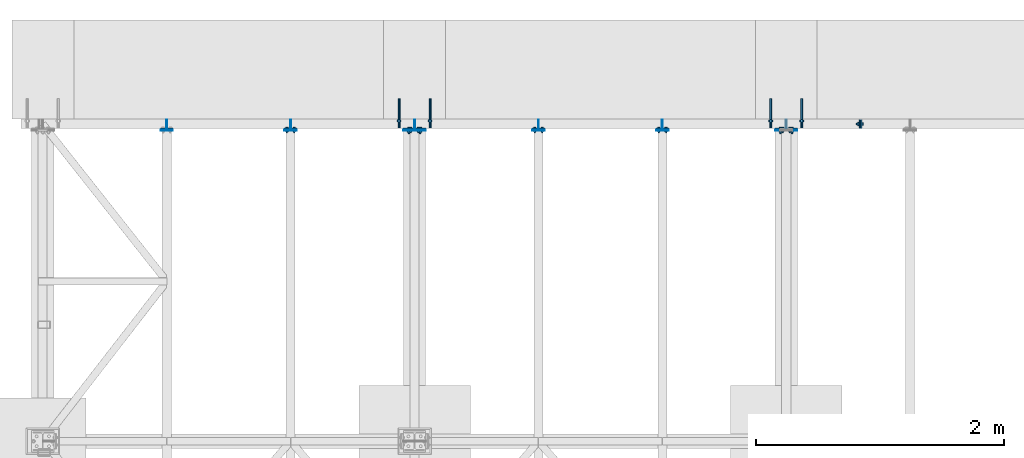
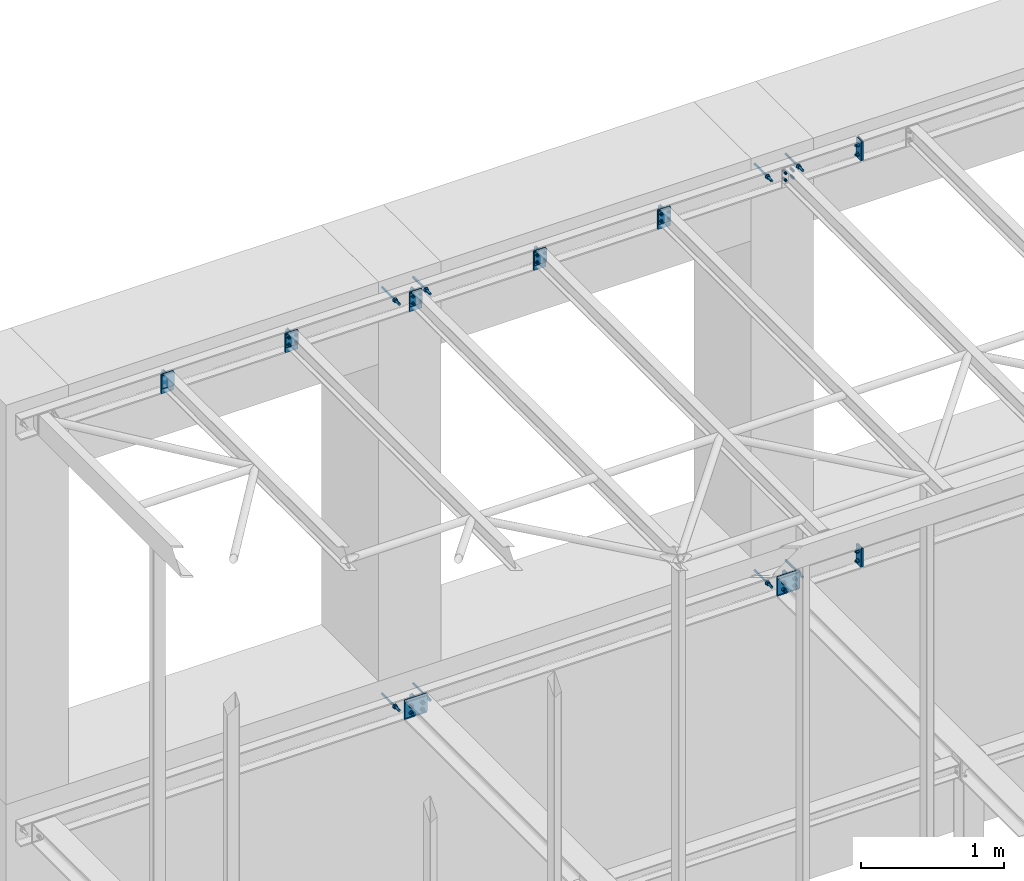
# One storey, part 15 of 23: 25 discrete accessories, 13 mechanical fasteners, 11 elements without a shape of their own.
"""IFC2X3 building model written with IfcOpenShell, lengths in millimetres."""

from ifc_helpers import new_model, si_unit, frame, frame_2d, origin_with_axes, origin_2d_with_axis, place, context, subcontext, project, spatial, polyline, circle_curve, parameter, trimmed, segment, composite_curve, circle, outline, extrude, source, transform, mapped, material, type_object, element, aggregate, save


model = new_model("IFC2X3")

# Units and contexts
model_context = context("Model", 3, precision=1e-05, world=origin_with_axes())
body_context = subcontext(model_context, "Body", "Model", "MODEL_VIEW")
ifc_project = project(units=[si_unit("LENGTHUNIT", "METRE", prefix="MILLI"), si_unit("AREAUNIT", "SQUARE_METRE"), si_unit("VOLUMEUNIT", "CUBIC_METRE"), si_unit("MASSUNIT", "GRAM", prefix="KILO"), si_unit("TIMEUNIT", "SECOND"), si_unit("PLANEANGLEUNIT", "RADIAN"), si_unit("SOLIDANGLEUNIT", "STERADIAN"), si_unit("THERMODYNAMICTEMPERATUREUNIT", "DEGREE_CELSIUS"), si_unit("LUMINOUSINTENSITYUNIT", "LUMEN")], contexts=[model_context])

# Site, building, storey
site_placement = place(None, origin_with_axes())
site = spatial("IfcSite", under=ifc_project, at=site_placement, Name="Undefined", CompositionType="ELEMENT")
building_placement = place(site_placement, origin_with_axes())
building = spatial("IfcBuilding", under=site, at=building_placement, Name="Undefined", CompositionType="ELEMENT")
storey_placement = place(building_placement, origin_with_axes())
storey = spatial("IfcBuildingStorey", under=building, at=storey_placement, Name="Undefined", CompositionType="ELEMENT", Elevation=0.0)

# Assembly, discrete accessory
assembly_1_placement = place(storey_placement, origin_with_axes())
assembly_1 = element("IfcElementAssembly", 1, at=assembly_1_placement, inside=storey, Name="Steel Assembly", AssemblyPlace="NOTDEFINED", PredefinedType="RIGID_FRAME")
ifc_material_1 = material(Name="STEEL/S235JR")
discrete_accessory_type_1 = type_object("IfcDiscreteAccessoryType", Name="PLECH")
discrete_accessory_1_placement = place(assembly_1_placement, frame((6645.0, 3855.0, -170.5), z_axis=(1.0, 0.0, 0.0), x_axis=(0.0, -1.0, 0.0)))
discrete_accessory_1 = element("IfcDiscreteAccessory", 2, at=discrete_accessory_1_placement, type_object=discrete_accessory_type_1, material=ifc_material_1, Name="PLECH", ObjectType="PL10*70", context=body_context, shape_type="SweptSolid", body=[
    extrude(outline(polyline([(0.0, 0.0), (70.0, 4.54747350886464e-13), (70.0, 159.0), (0.0, 159.0), (0.0, 0.0)])), frame((0.0, 0.0, -5.0), z_axis=(0.0, 0.0, 1.0), x_axis=(1.0, 0.0, 0.0)), (0.0, 0.0, 1.0), 10.0),
])

assembly_2_placement = place(storey_placement, origin_with_axes())
assembly_2 = element("IfcElementAssembly", 3, at=assembly_2_placement, inside=storey, Name="Steel Assembly", AssemblyPlace="NOTDEFINED", PredefinedType="RIGID_FRAME")
discrete_accessory_2_placement = place(assembly_2_placement, frame((6655.0, 3855.0, -170.5), z_axis=(1.0, 0.0, 0.0), x_axis=(0.0, -1.0, 0.0)))
discrete_accessory_2 = element("IfcDiscreteAccessory", 4, at=discrete_accessory_2_placement, type_object=discrete_accessory_type_1, material=ifc_material_1, Name="PLECH", ObjectType="PL10*70", context=body_context, shape_type="SweptSolid", body=[
    extrude(outline(polyline([(0.0, 0.0), (70.0, 4.54747350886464e-13), (70.0, 159.0), (0.0, 159.0), (0.0, 0.0)])), frame((0.0, 0.0, -5.0), z_axis=(0.0, 0.0, 1.0), x_axis=(1.0, 0.0, 0.0)), (0.0, 0.0, 1.0), 10.0),
])

assembly_3_placement = place(storey_placement, origin_with_axes())
assembly_3 = element("IfcElementAssembly", 5, at=assembly_3_placement, inside=storey, Name="Steel Assembly", AssemblyPlace="NOTDEFINED", PredefinedType="RIGID_FRAME")
discrete_accessory_3_placement = place(assembly_3_placement, frame((6645.0, 3855.0, 3289.5), z_axis=(1.0, 0.0, 0.0), x_axis=(0.0, -1.0, 0.0)))
discrete_accessory_3 = element("IfcDiscreteAccessory", 6, at=discrete_accessory_3_placement, type_object=discrete_accessory_type_1, material=ifc_material_1, Name="PLECH", ObjectType="PL10*70", context=body_context, shape_type="SweptSolid", body=[
    extrude(outline(polyline([(0.0, 0.0), (70.0, 4.54747350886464e-13), (70.0, 159.0), (0.0, 159.0), (0.0, 0.0)])), frame((0.0, 0.0, -5.0), z_axis=(0.0, 0.0, 1.0), x_axis=(1.0, 0.0, 0.0)), (0.0, 0.0, 1.0), 10.0),
])

assembly_4_placement = place(storey_placement, origin_with_axes())
assembly_4 = element("IfcElementAssembly", 7, at=assembly_4_placement, inside=storey, Name="Steel Assembly", AssemblyPlace="NOTDEFINED", PredefinedType="RIGID_FRAME")
discrete_accessory_4_placement = place(assembly_4_placement, frame((6655.0, 3855.0, 3289.5), z_axis=(1.0, 0.0, 0.0), x_axis=(0.0, -1.0, 0.0)))
discrete_accessory_4 = element("IfcDiscreteAccessory", 8, at=discrete_accessory_4_placement, type_object=discrete_accessory_type_1, material=ifc_material_1, Name="PLECH", ObjectType="PL10*70", context=body_context, shape_type="SweptSolid", body=[
    extrude(outline(polyline([(0.0, 0.0), (70.0, 4.54747350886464e-13), (70.0, 159.0), (0.0, 159.0), (0.0, 0.0)])), frame((0.0, 0.0, -5.0), z_axis=(0.0, 0.0, 1.0), x_axis=(1.0, 0.0, 0.0)), (0.0, 0.0, 1.0), 10.0),
])

# Discrete accessory
discrete_accessory_5_placement = place(assembly_1_placement, frame((5960.0, 3780.0, -168.0), z_axis=(0.0, 1.0, 0.0), x_axis=(1.0, 0.0, 0.0)))
discrete_accessory_5 = element("IfcDiscreteAccessory", 9, at=discrete_accessory_5_placement, type_object=discrete_accessory_type_1, material=ifc_material_1, Name="PLECH", ObjectType="PL10*164", context=body_context, shape_type="SweptSolid", body=[
    extrude(outline(polyline([(0.0, 0.0), (180.0, 0.0), (180.0, 164.0), (0.0, 164.0), (0.0, 0.0)])), frame((0.0, 0.0, -5.0), z_axis=(0.0, 0.0, 1.0), x_axis=(1.0, 0.0, 0.0)), (0.0, 0.0, 1.0), 10.0),
])

discrete_accessory_6_placement = place(assembly_1_placement, frame((6050.0, 3785.0, -170.5), z_axis=(-1.0, 0.0, 0.0), x_axis=(0.0, 1.0, 0.0)))
discrete_accessory_6 = element("IfcDiscreteAccessory", 10, at=discrete_accessory_6_placement, type_object=discrete_accessory_type_1, material=ifc_material_1, Name="PLECH", ObjectType="PL8*70", context=body_context, shape_type="SweptSolid", body=[
    extrude(outline(composite_curve([segment(polyline([(0.0, 0.0), (49.5, 0.0)]), True, "CONTINUOUS"), segment(trimmed(circle_curve(frame_2d((69.5, 0.0), x_axis=(-1.0, 0.0)), 20.0), [parameter(0.0)], [parameter(4.71238898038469)], False, "PARAMETER"), True, "CONTINUOUS"), segment(polyline([(69.5, 20.0), (69.5, 139.0)]), True, "CONTINUOUS"), segment(trimmed(circle_curve(frame_2d((69.5, 159.0), x_axis=(0.0, -1.0)), 20.0), [parameter(0.0)], [parameter(4.71238898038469)], False, "PARAMETER"), True, "CONTINUOUS"), segment(polyline([(49.5, 159.0), (0.0, 159.0), (0.0, 0.0)]), True, "DISCONTINUOUS")], self_intersect=False)), frame((0.0, 0.0, -4.0), z_axis=(0.0, 0.0, 1.0), x_axis=(1.0, 0.0, 0.0)), (0.0, 0.0, 1.0), 8.0),
])

# Assembly, discrete accessory
assembly_5_placement = place(storey_placement, origin_with_axes())
assembly_5 = element("IfcElementAssembly", 11, at=assembly_5_placement, inside=storey, Name="Steel Assembly", AssemblyPlace="NOTDEFINED", PredefinedType="RIGID_FRAME")
discrete_accessory_7_placement = place(assembly_5_placement, frame((5960.0, 3771.0, -184.0), z_axis=(0.0, 1.0, 0.0), x_axis=(1.0, 0.0, 0.0)))
discrete_accessory_7 = element("IfcDiscreteAccessory", 12, at=discrete_accessory_7_placement, type_object=discrete_accessory_type_1, material=ifc_material_1, Name="PLECH", ObjectType="PL8*132", context=body_context, shape_type="SweptSolid", body=[
    extrude(outline(polyline([(0.0, 0.0), (180.0, 0.0), (180.0, 132.0), (0.0, 132.0), (0.0, 0.0)])), frame((0.0, 0.0, -4.0), z_axis=(0.0, 0.0, 1.0), x_axis=(1.0, 0.0, 0.0)), (0.0, 0.0, 1.0), 8.0),
])
aggregate(assembly_5, [discrete_accessory_7])

# Discrete accessory
discrete_accessory_8_placement = place(assembly_1_placement, frame((2960.0, 3780.0, -168.0), z_axis=(0.0, 1.0, 0.0), x_axis=(1.0, 0.0, 0.0)))
discrete_accessory_8 = element("IfcDiscreteAccessory", 13, at=discrete_accessory_8_placement, type_object=discrete_accessory_type_1, material=ifc_material_1, Name="PLECH", ObjectType="PL10*164", context=body_context, shape_type="SweptSolid", body=[
    extrude(outline(polyline([(0.0, 0.0), (180.0, 0.0), (180.0, 164.0), (0.0, 164.0), (0.0, 0.0)])), frame((0.0, 0.0, -5.0), z_axis=(0.0, 0.0, 1.0), x_axis=(1.0, 0.0, 0.0)), (0.0, 0.0, 1.0), 10.0),
])

discrete_accessory_9_placement = place(assembly_1_placement, frame((3050.0, 3785.0, -170.5), z_axis=(-1.0, 0.0, 0.0), x_axis=(0.0, 1.0, 0.0)))
discrete_accessory_9 = element("IfcDiscreteAccessory", 14, at=discrete_accessory_9_placement, type_object=discrete_accessory_type_1, material=ifc_material_1, Name="PLECH", ObjectType="PL8*70", context=body_context, shape_type="SweptSolid", body=[
    extrude(outline(composite_curve([segment(polyline([(0.0, 0.0), (49.5, 0.0)]), True, "CONTINUOUS"), segment(trimmed(circle_curve(frame_2d((69.5, 0.0), x_axis=(-1.0, 0.0)), 20.0), [parameter(0.0)], [parameter(4.71238898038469)], False, "PARAMETER"), True, "CONTINUOUS"), segment(polyline([(69.5, 20.0), (69.5, 139.0)]), True, "CONTINUOUS"), segment(trimmed(circle_curve(frame_2d((69.5, 159.0), x_axis=(0.0, -1.0)), 20.0), [parameter(0.0)], [parameter(4.71238898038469)], False, "PARAMETER"), True, "CONTINUOUS"), segment(polyline([(49.5, 159.0), (0.0, 159.0), (0.0, 0.0)]), True, "DISCONTINUOUS")], self_intersect=False)), frame((0.0, 0.0, -4.0), z_axis=(0.0, 0.0, 1.0), x_axis=(1.0, 0.0, 0.0)), (0.0, 0.0, 1.0), 8.0),
])

# Assembly, discrete accessory
assembly_6_placement = place(storey_placement, origin_with_axes())
assembly_6 = element("IfcElementAssembly", 15, at=assembly_6_placement, inside=storey, Name="Steel Assembly", AssemblyPlace="NOTDEFINED", PredefinedType="RIGID_FRAME")
discrete_accessory_10_placement = place(assembly_6_placement, frame((2960.0, 3771.0, -184.0), z_axis=(0.0, 1.0, 0.0), x_axis=(1.0, 0.0, 0.0)))
discrete_accessory_10 = element("IfcDiscreteAccessory", 16, at=discrete_accessory_10_placement, type_object=discrete_accessory_type_1, material=ifc_material_1, Name="PLECH", ObjectType="PL8*132", context=body_context, shape_type="SweptSolid", body=[
    extrude(outline(polyline([(0.0, 0.0), (180.0, 0.0), (180.0, 132.0), (0.0, 132.0), (0.0, 0.0)])), frame((0.0, 0.0, -4.0), z_axis=(0.0, 0.0, 1.0), x_axis=(1.0, 0.0, 0.0)), (0.0, 0.0, 1.0), 8.0),
])
aggregate(assembly_6, [discrete_accessory_10])

# Discrete accessory
discrete_accessory_11_placement = place(assembly_3_placement, frame((1050.0, 3785.0, 3289.5), z_axis=(-1.0, 0.0, 0.0), x_axis=(0.0, 1.0, 0.0)))
discrete_accessory_11 = element("IfcDiscreteAccessory", 17, at=discrete_accessory_11_placement, type_object=discrete_accessory_type_1, material=ifc_material_1, Name="PLECH", ObjectType="PL6*70", context=body_context, shape_type="SweptSolid", body=[
    extrude(outline(composite_curve([segment(polyline([(0.0, 0.0), (49.5, 0.0)]), True, "CONTINUOUS"), segment(trimmed(circle_curve(frame_2d((69.5, 0.0), x_axis=(-1.0, 0.0)), 20.0), [parameter(0.0)], [parameter(4.71238898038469)], False, "PARAMETER"), True, "CONTINUOUS"), segment(polyline([(69.5, 20.0), (69.5, 139.0)]), True, "CONTINUOUS"), segment(trimmed(circle_curve(frame_2d((69.5, 159.0), x_axis=(0.0, -1.0)), 20.0), [parameter(0.0)], [parameter(4.71238898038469)], False, "PARAMETER"), True, "CONTINUOUS"), segment(polyline([(49.5, 159.0), (0.0, 159.0), (0.0, 0.0)]), True, "DISCONTINUOUS")], self_intersect=False)), frame((0.0, 0.0, -3.0), z_axis=(0.0, 0.0, 1.0), x_axis=(1.0, 0.0, 0.0)), (0.0, 0.0, 1.0), 6.0),
])

# Assembly, discrete accessory
assembly_7_placement = place(storey_placement, origin_with_axes())
assembly_7 = element("IfcElementAssembly", 18, at=assembly_7_placement, inside=storey, Name="Steel Assembly", AssemblyPlace="NOTDEFINED", PredefinedType="RIGID_FRAME")
discrete_accessory_12_placement = place(assembly_7_placement, frame((1000.0, 3771.0, 3175.0), z_axis=(0.0, 1.0, 0.0), x_axis=(0.0, 0.0, 1.0)))
discrete_accessory_12 = element("IfcDiscreteAccessory", 19, at=discrete_accessory_12_placement, type_object=discrete_accessory_type_1, material=ifc_material_1, Name="PLECH", ObjectType="PL8*100", context=body_context, shape_type="SweptSolid", body=[
    extrude(outline(polyline([(0.0, 0.0), (110.0, 0.0), (110.0, 100.0), (-9.09494701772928e-13, 100.0), (0.0, 0.0)])), frame((0.0, 0.0, -4.0), z_axis=(0.0, 0.0, 1.0), x_axis=(1.0, 0.0, 0.0)), (0.0, 0.0, 1.0), 8.0),
])
aggregate(assembly_7, [discrete_accessory_12])

# Discrete accessory
discrete_accessory_13_placement = place(assembly_3_placement, frame((1000.0, 3780.0, 3128.0), z_axis=(0.0, 1.0, 0.0), x_axis=(0.0, 0.0, 1.0)))
discrete_accessory_13 = element("IfcDiscreteAccessory", 20, at=discrete_accessory_13_placement, type_object=discrete_accessory_type_1, material=ifc_material_1, Name="PLECH", ObjectType="PL10*100", context=body_context, shape_type="SweptSolid", body=[
    extrude(outline(polyline([(0.0, 0.0), (164.0, 4.54747350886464e-13), (164.0, 100.0), (-9.09494701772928e-13, 100.0), (0.0, 0.0)])), frame((0.0, 0.0, -5.0), z_axis=(0.0, 0.0, 1.0), x_axis=(1.0, 0.0, 0.0)), (0.0, 0.0, 1.0), 10.0),
])

discrete_accessory_14_placement = place(assembly_3_placement, frame((2050.0, 3785.0, 3289.5), z_axis=(-1.0, 0.0, 0.0), x_axis=(0.0, 1.0, 0.0)))
discrete_accessory_14 = element("IfcDiscreteAccessory", 21, at=discrete_accessory_14_placement, type_object=discrete_accessory_type_1, material=ifc_material_1, Name="PLECH", ObjectType="PL6*70", context=body_context, shape_type="SweptSolid", body=[
    extrude(outline(composite_curve([segment(polyline([(0.0, 0.0), (49.5, 0.0)]), True, "CONTINUOUS"), segment(trimmed(circle_curve(frame_2d((69.5, 0.0), x_axis=(-1.0, 0.0)), 20.0), [parameter(0.0)], [parameter(4.71238898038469)], False, "PARAMETER"), True, "CONTINUOUS"), segment(polyline([(69.5, 20.0), (69.5, 139.0)]), True, "CONTINUOUS"), segment(trimmed(circle_curve(frame_2d((69.5, 159.0), x_axis=(0.0, -1.0)), 20.0), [parameter(0.0)], [parameter(4.71238898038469)], False, "PARAMETER"), True, "CONTINUOUS"), segment(polyline([(49.5, 159.0), (0.0, 159.0), (0.0, 0.0)]), True, "DISCONTINUOUS")], self_intersect=False)), frame((0.0, 0.0, -3.0), z_axis=(0.0, 0.0, 1.0), x_axis=(1.0, 0.0, 0.0)), (0.0, 0.0, 1.0), 6.0),
])

# Assembly, discrete accessory
assembly_8_placement = place(storey_placement, origin_with_axes())
assembly_8 = element("IfcElementAssembly", 22, at=assembly_8_placement, inside=storey, Name="Steel Assembly", AssemblyPlace="NOTDEFINED", PredefinedType="RIGID_FRAME")
discrete_accessory_15_placement = place(assembly_8_placement, frame((2000.0, 3771.0, 3175.0), z_axis=(0.0, 1.0, 0.0), x_axis=(0.0, 0.0, 1.0)))
discrete_accessory_15 = element("IfcDiscreteAccessory", 23, at=discrete_accessory_15_placement, type_object=discrete_accessory_type_1, material=ifc_material_1, Name="PLECH", ObjectType="PL8*100", context=body_context, shape_type="SweptSolid", body=[
    extrude(outline(polyline([(0.0, 0.0), (110.0, 0.0), (110.0, 100.0), (-9.09494701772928e-13, 100.0), (0.0, 0.0)])), frame((0.0, 0.0, -4.0), z_axis=(0.0, 0.0, 1.0), x_axis=(1.0, 0.0, 0.0)), (0.0, 0.0, 1.0), 8.0),
])
aggregate(assembly_8, [discrete_accessory_15])

# Discrete accessory
discrete_accessory_16_placement = place(assembly_3_placement, frame((2000.0, 3780.0, 3128.0), z_axis=(0.0, 1.0, 0.0), x_axis=(0.0, 0.0, 1.0)))
discrete_accessory_16 = element("IfcDiscreteAccessory", 24, at=discrete_accessory_16_placement, type_object=discrete_accessory_type_1, material=ifc_material_1, Name="PLECH", ObjectType="PL10*100", context=body_context, shape_type="SweptSolid", body=[
    extrude(outline(polyline([(0.0, 0.0), (164.0, 4.54747350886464e-13), (164.0, 100.0), (-9.09494701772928e-13, 100.0), (0.0, 0.0)])), frame((0.0, 0.0, -5.0), z_axis=(0.0, 0.0, 1.0), x_axis=(1.0, 0.0, 0.0)), (0.0, 0.0, 1.0), 10.0),
])

discrete_accessory_17_placement = place(assembly_3_placement, frame((5050.0, 3785.0, 3289.5), z_axis=(-1.0, 0.0, 0.0), x_axis=(0.0, 1.0, 0.0)))
discrete_accessory_17 = element("IfcDiscreteAccessory", 25, at=discrete_accessory_17_placement, type_object=discrete_accessory_type_1, material=ifc_material_1, Name="PLECH", ObjectType="PL6*70", context=body_context, shape_type="SweptSolid", body=[
    extrude(outline(composite_curve([segment(polyline([(0.0, 0.0), (49.5, 0.0)]), True, "CONTINUOUS"), segment(trimmed(circle_curve(frame_2d((69.5, 0.0), x_axis=(-1.0, 0.0)), 20.0), [parameter(0.0)], [parameter(4.71238898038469)], False, "PARAMETER"), True, "CONTINUOUS"), segment(polyline([(69.5, 20.0), (69.5, 139.0)]), True, "CONTINUOUS"), segment(trimmed(circle_curve(frame_2d((69.5, 159.0), x_axis=(0.0, -1.0)), 20.0), [parameter(0.0)], [parameter(4.71238898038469)], False, "PARAMETER"), True, "CONTINUOUS"), segment(polyline([(49.5, 159.0), (0.0, 159.0), (0.0, 0.0)]), True, "DISCONTINUOUS")], self_intersect=False)), frame((0.0, 0.0, -3.0), z_axis=(0.0, 0.0, 1.0), x_axis=(1.0, 0.0, 0.0)), (0.0, 0.0, 1.0), 6.0),
])

# Assembly, discrete accessory
assembly_9_placement = place(storey_placement, origin_with_axes())
assembly_9 = element("IfcElementAssembly", 26, at=assembly_9_placement, inside=storey, Name="Steel Assembly", AssemblyPlace="NOTDEFINED", PredefinedType="RIGID_FRAME")
discrete_accessory_18_placement = place(assembly_9_placement, frame((5000.0, 3771.0, 3175.0), z_axis=(0.0, 1.0, 0.0), x_axis=(0.0, 0.0, 1.0)))
discrete_accessory_18 = element("IfcDiscreteAccessory", 27, at=discrete_accessory_18_placement, type_object=discrete_accessory_type_1, material=ifc_material_1, Name="PLECH", ObjectType="PL8*100", context=body_context, shape_type="SweptSolid", body=[
    extrude(outline(polyline([(0.0, 0.0), (110.0, 0.0), (110.0, 100.0), (-9.09494701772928e-13, 100.0), (0.0, 0.0)])), frame((0.0, 0.0, -4.0), z_axis=(0.0, 0.0, 1.0), x_axis=(1.0, 0.0, 0.0)), (0.0, 0.0, 1.0), 8.0),
])
aggregate(assembly_9, [discrete_accessory_18])

# Discrete accessory
discrete_accessory_19_placement = place(assembly_3_placement, frame((5000.0, 3780.0, 3128.0), z_axis=(0.0, 1.0, 0.0), x_axis=(0.0, 0.0, 1.0)))
discrete_accessory_19 = element("IfcDiscreteAccessory", 28, at=discrete_accessory_19_placement, type_object=discrete_accessory_type_1, material=ifc_material_1, Name="PLECH", ObjectType="PL10*100", context=body_context, shape_type="SweptSolid", body=[
    extrude(outline(polyline([(0.0, 0.0), (164.0, 4.54747350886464e-13), (164.0, 100.0), (-9.09494701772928e-13, 100.0), (0.0, 0.0)])), frame((0.0, 0.0, -5.0), z_axis=(0.0, 0.0, 1.0), x_axis=(1.0, 0.0, 0.0)), (0.0, 0.0, 1.0), 10.0),
])

discrete_accessory_20_placement = place(assembly_3_placement, frame((4050.0, 3785.0, 3289.5), z_axis=(-1.0, 0.0, 0.0), x_axis=(0.0, 1.0, 0.0)))
discrete_accessory_20 = element("IfcDiscreteAccessory", 29, at=discrete_accessory_20_placement, type_object=discrete_accessory_type_1, material=ifc_material_1, Name="PLECH", ObjectType="PL6*70", context=body_context, shape_type="SweptSolid", body=[
    extrude(outline(composite_curve([segment(polyline([(0.0, 0.0), (49.5, 0.0)]), True, "CONTINUOUS"), segment(trimmed(circle_curve(frame_2d((69.5, 0.0), x_axis=(-1.0, 0.0)), 20.0), [parameter(0.0)], [parameter(4.71238898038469)], False, "PARAMETER"), True, "CONTINUOUS"), segment(polyline([(69.5, 20.0), (69.5, 139.0)]), True, "CONTINUOUS"), segment(trimmed(circle_curve(frame_2d((69.5, 159.0), x_axis=(0.0, -1.0)), 20.0), [parameter(0.0)], [parameter(4.71238898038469)], False, "PARAMETER"), True, "CONTINUOUS"), segment(polyline([(49.5, 159.0), (0.0, 159.0), (0.0, 0.0)]), True, "DISCONTINUOUS")], self_intersect=False)), frame((0.0, 0.0, -3.0), z_axis=(0.0, 0.0, 1.0), x_axis=(1.0, 0.0, 0.0)), (0.0, 0.0, 1.0), 6.0),
])

# Assembly, discrete accessory
assembly_10_placement = place(storey_placement, origin_with_axes())
assembly_10 = element("IfcElementAssembly", 30, at=assembly_10_placement, inside=storey, Name="Steel Assembly", AssemblyPlace="NOTDEFINED", PredefinedType="RIGID_FRAME")
discrete_accessory_21_placement = place(assembly_10_placement, frame((4000.0, 3771.0, 3175.0), z_axis=(0.0, 1.0, 0.0), x_axis=(0.0, 0.0, 1.0)))
discrete_accessory_21 = element("IfcDiscreteAccessory", 31, at=discrete_accessory_21_placement, type_object=discrete_accessory_type_1, material=ifc_material_1, Name="PLECH", ObjectType="PL8*100", context=body_context, shape_type="SweptSolid", body=[
    extrude(outline(polyline([(0.0, 0.0), (110.0, 0.0), (110.0, 100.0), (-9.09494701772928e-13, 100.0), (0.0, 0.0)])), frame((0.0, 0.0, -4.0), z_axis=(0.0, 0.0, 1.0), x_axis=(1.0, 0.0, 0.0)), (0.0, 0.0, 1.0), 8.0),
])
aggregate(assembly_10, [discrete_accessory_21])

# Discrete accessory
discrete_accessory_22_placement = place(assembly_3_placement, frame((4000.0, 3780.0, 3128.0), z_axis=(0.0, 1.0, 0.0), x_axis=(0.0, 0.0, 1.0)))
discrete_accessory_22 = element("IfcDiscreteAccessory", 32, at=discrete_accessory_22_placement, type_object=discrete_accessory_type_1, material=ifc_material_1, Name="PLECH", ObjectType="PL10*100", context=body_context, shape_type="SweptSolid", body=[
    extrude(outline(polyline([(0.0, 0.0), (164.0, 4.54747350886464e-13), (164.0, 100.0), (-9.09494701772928e-13, 100.0), (0.0, 0.0)])), frame((0.0, 0.0, -5.0), z_axis=(0.0, 0.0, 1.0), x_axis=(1.0, 0.0, 0.0)), (0.0, 0.0, 1.0), 10.0),
])

discrete_accessory_23_placement = place(assembly_3_placement, frame((3050.0, 3785.0, 3289.5), z_axis=(-1.0, 0.0, 0.0), x_axis=(0.0, 1.0, 0.0)))
discrete_accessory_23 = element("IfcDiscreteAccessory", 33, at=discrete_accessory_23_placement, type_object=discrete_accessory_type_1, material=ifc_material_1, Name="PLECH", ObjectType="PL6*70", context=body_context, shape_type="SweptSolid", body=[
    extrude(outline(composite_curve([segment(polyline([(0.0, 0.0), (49.5, 0.0)]), True, "CONTINUOUS"), segment(trimmed(circle_curve(frame_2d((69.5, 0.0), x_axis=(-1.0, 0.0)), 20.0), [parameter(0.0)], [parameter(4.71238898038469)], False, "PARAMETER"), True, "CONTINUOUS"), segment(polyline([(69.5, 20.0), (69.5, 139.0)]), True, "CONTINUOUS"), segment(trimmed(circle_curve(frame_2d((69.5, 159.0), x_axis=(0.0, -1.0)), 20.0), [parameter(0.0)], [parameter(4.71238898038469)], False, "PARAMETER"), True, "CONTINUOUS"), segment(polyline([(49.5, 159.0), (0.0, 159.0), (0.0, 0.0)]), True, "DISCONTINUOUS")], self_intersect=False)), frame((0.0, 0.0, -3.0), z_axis=(0.0, 0.0, 1.0), x_axis=(1.0, 0.0, 0.0)), (0.0, 0.0, 1.0), 6.0),
])

# Assembly, discrete accessory
assembly_11_placement = place(storey_placement, origin_with_axes())
assembly_11 = element("IfcElementAssembly", 34, at=assembly_11_placement, inside=storey, Name="Steel Assembly", AssemblyPlace="NOTDEFINED", PredefinedType="RIGID_FRAME")
discrete_accessory_24_placement = place(assembly_11_placement, frame((3000.0, 3771.0, 3175.0), z_axis=(0.0, 1.0, 0.0), x_axis=(0.0, 0.0, 1.0)))
discrete_accessory_24 = element("IfcDiscreteAccessory", 35, at=discrete_accessory_24_placement, type_object=discrete_accessory_type_1, material=ifc_material_1, Name="PLECH", ObjectType="PL8*100", context=body_context, shape_type="SweptSolid", body=[
    extrude(outline(polyline([(0.0, 0.0), (110.0, 0.0), (110.0, 100.0), (-9.09494701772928e-13, 100.0), (0.0, 0.0)])), frame((0.0, 0.0, -4.0), z_axis=(0.0, 0.0, 1.0), x_axis=(1.0, 0.0, 0.0)), (0.0, 0.0, 1.0), 8.0),
])
aggregate(assembly_11, [discrete_accessory_24])

# Discrete accessory
discrete_accessory_25_placement = place(assembly_3_placement, frame((3000.0, 3780.0, 3128.0), z_axis=(0.0, 1.0, 0.0), x_axis=(0.0, 0.0, 1.0)))
discrete_accessory_25 = element("IfcDiscreteAccessory", 36, at=discrete_accessory_25_placement, type_object=discrete_accessory_type_1, material=ifc_material_1, Name="PLECH", ObjectType="PL10*100", context=body_context, shape_type="SweptSolid", body=[
    extrude(outline(polyline([(0.0, 0.0), (164.0, 4.54747350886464e-13), (164.0, 100.0), (-9.09494701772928e-13, 100.0), (0.0, 0.0)])), frame((0.0, 0.0, -5.0), z_axis=(0.0, 0.0, 1.0), x_axis=(1.0, 0.0, 0.0)), (0.0, 0.0, 1.0), 10.0),
])

# Mechanical fastener
ifc_material_2 = material(Name="Undefined")
discrete_accessory_type_2 = type_object("IfcDiscreteAccessoryType", Name="Bolt assembly")
shared_shape_1 = source(origin_with_axes(), body_context, "Body", "SweptSolid", [
    extrude(circle(Radius=9.0, at=origin_2d_with_axis()), frame((0.0, -0.1, 0.0), z_axis=(0.0, 1.0, 0.0), x_axis=(1.0, 0.0, 0.0)), (0.0, 0.0, 1.0), 10.1),
    extrude(circle(Radius=9.0, at=origin_2d_with_axis()), frame((0.0, -9.9, 0.0), z_axis=(0.0, 1.0, 0.0), x_axis=(1.0, 0.0, 0.0)), (0.0, 0.0, 1.0), 10.0),
    extrude(outline(polyline([(13.85640646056, 0.0), (6.92820323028, 12.0000000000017), (-6.92820323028, 12.0000000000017), (-13.85640646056, 0.0), (-6.92820323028, -12.0000000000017), (6.92820323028, -12.0000000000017), (13.85640646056, 0.0)])), frame((0.0, -23.0, 0.0), z_axis=(0.0, 1.0, 0.0), x_axis=(1.0, 0.0, 0.0)), (0.0, 0.0, 1.0), 10.0),
    extrude(circle(Radius=8.0, at=origin_2d_with_axis()), frame((0.0, -13.0, 0.0), z_axis=(0.0, 1.0, 0.0), x_axis=(1.0, 0.0, 0.0)), (0.0, 0.0, 1.0), 50.0),
    extrude(circle(Radius=15.0, at=origin_2d_with_axis()), frame((0.0, -13.0, 0.0), z_axis=(0.0, 1.0, 0.0), x_axis=(1.0, 0.0, 0.0)), (0.0, 0.0, 1.0), 3.0),
    extrude(circle(Radius=15.0, at=origin_2d_with_axis()), frame((0.0, 10.0, 0.0), z_axis=(0.0, 1.0, 0.0), x_axis=(1.0, 0.0, 0.0)), (0.0, 0.0, 1.0), 3.0),
    extrude(outline(polyline([(15.4441197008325, 0.0), (7.72205985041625, 13.3750000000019), (-7.72205985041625, 13.3750000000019), (-15.4441197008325, 0.0), (-7.72205985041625, -13.3750000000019), (7.72205985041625, -13.3750000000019), (15.4441197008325, 0.0)])), frame((0.0, 13.0, 0.0), z_axis=(0.0, 1.0, 0.0), x_axis=(1.0, 0.0, 0.0)), (0.0, 0.0, 1.0), 13.0),
])
mechanical_fastener_1_placement = place(assembly_2_placement, frame((6650.0, 3820.5, -249.999999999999), z_axis=(0.0, 0.0, 1.0), x_axis=(0.0, 1.0, 0.0)))
mechanical_fastener_1 = element("IfcMechanicalFastener", 37, at=mechanical_fastener_1_placement, type_object=discrete_accessory_type_2, material=ifc_material_2, Name="Bolt assembly", NominalDiameter=16.0, NominalLength=50.0, context=body_context, shape_type="MappedRepresentation", body=[
    mapped(shared_shape_1, transform((0.0, 0.0, -40.0))),
    mapped(shared_shape_1, transform((0.0, 0.0, 40.0))),
])

aggregate(assembly_2, [mechanical_fastener_1, discrete_accessory_2])

mechanical_fastener_2_placement = place(assembly_4_placement, frame((6650.0, 3820.5, 3210.0), z_axis=(0.0, 0.0, 1.0), x_axis=(0.0, 1.0, 0.0)))
mechanical_fastener_2 = element("IfcMechanicalFastener", 38, at=mechanical_fastener_2_placement, type_object=discrete_accessory_type_2, material=ifc_material_2, Name="Bolt assembly", NominalDiameter=16.0, NominalLength=50.0, context=body_context, shape_type="MappedRepresentation", body=[
    mapped(shared_shape_1, transform((0.0, 0.0, -40.0))),
    mapped(shared_shape_1, transform((0.0, 0.0, 40.0))),
])

aggregate(assembly_4, [mechanical_fastener_2, discrete_accessory_4])

shared_shape_2 = source(origin_with_axes(), body_context, "Body", "SweptSolid", [
    extrude(circle(Radius=11.0, at=origin_2d_with_axis()), frame((0.0, -5.5, 0.0), z_axis=(0.0, 1.0, 0.0), x_axis=(1.0, 0.0, 0.0)), (0.0, 0.0, 1.0), 5.6),
    extrude(outline(polyline([(9.81495457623, 0.0), (4.907477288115, 8.5000000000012), (-4.907477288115, 8.5000000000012), (-9.81495457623, 0.0), (-4.907477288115, -8.5000000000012), (4.907477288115, -8.5000000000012), (9.81495457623, 0.0)])), frame((0.0, -173.5, 0.0), z_axis=(0.0, 1.0, 0.0), x_axis=(1.0, 0.0, 0.0)), (0.0, 0.0, 1.0), 168.0),
    extrude(circle(Radius=10.0, at=origin_2d_with_axis()), frame((0.0, -5.5, 0.0), z_axis=(0.0, 1.0, 0.0), x_axis=(1.0, 0.0, 0.0)), (0.0, 0.0, 1.0), 72.0),
    extrude(circle(Radius=18.5, at=origin_2d_with_axis()), frame((0.0, 0.0, 0.0), z_axis=(0.0, 1.0, 0.0), x_axis=(1.0, 0.0, 0.0)), (0.0, 0.0, 1.0), 3.0),
    extrude(outline(polyline([(17.3205080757, 0.0), (8.66025403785, 15.0000000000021), (-8.66025403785, 15.0000000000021), (-17.3205080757, 0.0), (-8.66025403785, -15.0000000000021), (8.66025403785, -15.0000000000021), (17.3205080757, 0.0)])), frame((0.0, 3.0, 0.0), z_axis=(0.0, 1.0, 0.0), x_axis=(1.0, 0.0, 0.0)), (0.0, 0.0, 1.0), 16.0),
])
mechanical_fastener_3_placement = place(assembly_3_placement, frame((5925.0, 3854.5, 3210.0), z_axis=(0.0, 0.0, -1.0), x_axis=(1.0, 0.0, 0.0)))
mechanical_fastener_3 = element("IfcMechanicalFastener", 39, at=mechanical_fastener_3_placement, type_object=discrete_accessory_type_2, material=ifc_material_2, Name="Bolt assembly", NominalDiameter=20.0, NominalLength=72.0, context=body_context, shape_type="MappedRepresentation", body=[
    mapped(shared_shape_2, transform((0.0, 0.0, 0.0))),
    mapped(shared_shape_2, transform((250.0, 0.0, 0.0))),
])

mechanical_fastener_4_placement = place(assembly_3_placement, frame((2925.0, 3854.5, 3210.0), z_axis=(0.0, 0.0, -1.0), x_axis=(1.0, 0.0, 0.0)))
mechanical_fastener_4 = element("IfcMechanicalFastener", 40, at=mechanical_fastener_4_placement, type_object=discrete_accessory_type_2, material=ifc_material_2, Name="Bolt assembly", NominalDiameter=20.0, NominalLength=72.0, context=body_context, shape_type="MappedRepresentation", body=[
    mapped(shared_shape_2, transform((0.0, 0.0, 0.0))),
    mapped(shared_shape_2, transform((250.0, 0.0, 0.0))),
])

mechanical_fastener_5_placement = place(assembly_1_placement, frame((2925.0, 3854.5, -250.0), z_axis=(0.0, 0.0, -1.0), x_axis=(1.0, 0.0, 0.0)))
mechanical_fastener_5 = element("IfcMechanicalFastener", 41, at=mechanical_fastener_5_placement, type_object=discrete_accessory_type_2, material=ifc_material_2, Name="Bolt assembly", NominalDiameter=20.0, NominalLength=72.0, context=body_context, shape_type="MappedRepresentation", body=[
    mapped(shared_shape_2, transform((0.0, 0.0, 0.0))),
    mapped(shared_shape_2, transform((250.0, 0.0, 0.0))),
])

mechanical_fastener_6_placement = place(assembly_1_placement, frame((5925.0, 3854.5, -250.0), z_axis=(0.0, 0.0, -1.0), x_axis=(1.0, 0.0, 0.0)))
mechanical_fastener_6 = element("IfcMechanicalFastener", 42, at=mechanical_fastener_6_placement, type_object=discrete_accessory_type_2, material=ifc_material_2, Name="Bolt assembly", NominalDiameter=20.0, NominalLength=72.0, context=body_context, shape_type="MappedRepresentation", body=[
    mapped(shared_shape_2, transform((0.0, 0.0, 0.0))),
    mapped(shared_shape_2, transform((250.0, 0.0, 0.0))),
])

shared_shape_3 = source(origin_with_axes(), body_context, "Body", "SweptSolid", [
    extrude(circle(Radius=9.0, at=origin_2d_with_axis()), frame((0.0, -0.1, 0.0), z_axis=(0.0, 1.0, 0.0), x_axis=(1.0, 0.0, 0.0)), (0.0, 0.0, 1.0), 8.1),
    extrude(circle(Radius=9.0, at=origin_2d_with_axis()), frame((0.0, -9.9, 0.0), z_axis=(0.0, 1.0, 0.0), x_axis=(1.0, 0.0, 0.0)), (0.0, 0.0, 1.0), 10.0),
    extrude(outline(polyline([(13.85640646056, 0.0), (6.92820323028, 12.0000000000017), (-6.92820323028, 12.0000000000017), (-13.85640646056, 0.0), (-6.92820323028, -12.0000000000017), (6.92820323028, -12.0000000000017), (13.85640646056, 0.0)])), frame((0.0, -23.0, 0.0), z_axis=(0.0, 1.0, 0.0), x_axis=(1.0, 0.0, 0.0)), (0.0, 0.0, 1.0), 10.0),
    extrude(circle(Radius=8.0, at=origin_2d_with_axis()), frame((0.0, -13.0, 0.0), z_axis=(0.0, 1.0, 0.0), x_axis=(1.0, 0.0, 0.0)), (0.0, 0.0, 1.0), 50.0),
    extrude(circle(Radius=15.0, at=origin_2d_with_axis()), frame((0.0, -13.0, 0.0), z_axis=(0.0, 1.0, 0.0), x_axis=(1.0, 0.0, 0.0)), (0.0, 0.0, 1.0), 3.0),
    extrude(circle(Radius=15.0, at=origin_2d_with_axis()), frame((0.0, 8.0, 0.0), z_axis=(0.0, 1.0, 0.0), x_axis=(1.0, 0.0, 0.0)), (0.0, 0.0, 1.0), 3.0),
    extrude(outline(polyline([(15.4441197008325, 0.0), (7.72205985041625, 13.3750000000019), (-7.72205985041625, 13.3750000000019), (-15.4441197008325, 0.0), (-7.72205985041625, -13.3750000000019), (7.72205985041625, -13.3750000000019), (15.4441197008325, 0.0)])), frame((0.0, 11.0, 0.0), z_axis=(0.0, 1.0, 0.0), x_axis=(1.0, 0.0, 0.0)), (0.0, 0.0, 1.0), 13.0),
])
mechanical_fastener_7_placement = place(assembly_1_placement, frame((6005.0, 3775.0, -250.0), z_axis=(0.0, 0.0, -1.0), x_axis=(1.0, 0.0, 0.0)))
mechanical_fastener_7 = element("IfcMechanicalFastener", 43, at=mechanical_fastener_7_placement, type_object=discrete_accessory_type_2, material=ifc_material_2, Name="Bolt assembly", NominalDiameter=16.0, NominalLength=50.0, context=body_context, shape_type="MappedRepresentation", body=[
    mapped(shared_shape_3, transform((0.0, 0.0, -30.0))),
    mapped(shared_shape_3, transform((90.0, 0.0, -30.0))),
    mapped(shared_shape_3, transform((0.0, 0.0, 30.0))),
    mapped(shared_shape_3, transform((90.0, 0.0, 30.0))),
])

mechanical_fastener_8_placement = place(assembly_1_placement, frame((3005.0, 3775.0, -250.0), z_axis=(0.0, 0.0, -1.0), x_axis=(1.0, 0.0, 0.0)))
mechanical_fastener_8 = element("IfcMechanicalFastener", 44, at=mechanical_fastener_8_placement, type_object=discrete_accessory_type_2, material=ifc_material_2, Name="Bolt assembly", NominalDiameter=16.0, NominalLength=50.0, context=body_context, shape_type="MappedRepresentation", body=[
    mapped(shared_shape_3, transform((0.0, 0.0, -30.0))),
    mapped(shared_shape_3, transform((90.0, 0.0, -30.0))),
    mapped(shared_shape_3, transform((0.0, 0.0, 30.0))),
    mapped(shared_shape_3, transform((90.0, 0.0, 30.0))),
])

aggregate(assembly_1, [discrete_accessory_1, mechanical_fastener_5, mechanical_fastener_6, mechanical_fastener_7, discrete_accessory_5, discrete_accessory_6, mechanical_fastener_8, discrete_accessory_8, discrete_accessory_9])

shared_shape_4 = source(origin_with_axes(), body_context, "Body", "SweptSolid", [
    extrude(circle(Radius=6.5, at=origin_2d_with_axis()), frame((0.0, -0.1, 0.0), z_axis=(0.0, 1.0, 0.0), x_axis=(1.0, 0.0, 0.0)), (0.0, 0.0, 1.0), 8.1),
    extrude(circle(Radius=6.5, at=origin_2d_with_axis()), frame((0.0, -9.9, 0.0), z_axis=(0.0, 1.0, 0.0), x_axis=(1.0, 0.0, 0.0)), (0.0, 0.0, 1.0), 10.0),
    extrude(outline(polyline([(10.96965511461, 0.0), (5.484827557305, 9.50000000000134), (-5.484827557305, 9.50000000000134), (-10.96965511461, 0.0), (-5.484827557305, -9.50000000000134), (5.484827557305, -9.50000000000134), (10.96965511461, 0.0)])), frame((0.0, -20.0, 0.0), z_axis=(0.0, 1.0, 0.0), x_axis=(1.0, 0.0, 0.0)), (0.0, 0.0, 1.0), 7.5),
    extrude(circle(Radius=6.0, at=origin_2d_with_axis()), frame((0.0, -12.5, 0.0), z_axis=(0.0, 1.0, 0.0), x_axis=(1.0, 0.0, 0.0)), (0.0, 0.0, 1.0), 40.0),
    extrude(circle(Radius=12.0, at=origin_2d_with_axis()), frame((0.0, -12.5, 0.0), z_axis=(0.0, 1.0, 0.0), x_axis=(1.0, 0.0, 0.0)), (0.0, 0.0, 1.0), 2.5),
    extrude(circle(Radius=12.0, at=origin_2d_with_axis()), frame((0.0, 8.0, 0.0), z_axis=(0.0, 1.0, 0.0), x_axis=(1.0, 0.0, 0.0)), (0.0, 0.0, 1.0), 2.5),
    extrude(outline(polyline([(10.96965511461, 0.0), (5.484827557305, 9.50000000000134), (-5.484827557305, 9.50000000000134), (-10.96965511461, 0.0), (-5.484827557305, -9.50000000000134), (5.484827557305, -9.50000000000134), (10.96965511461, 0.0)])), frame((0.0, 10.5, 0.0), z_axis=(0.0, 1.0, 0.0), x_axis=(1.0, 0.0, 0.0)), (0.0, 0.0, 1.0), 10.0),
])
mechanical_fastener_9_placement = place(assembly_3_placement, frame((2020.0, 3775.0, 3230.0), z_axis=(0.0, 0.0, -1.0), x_axis=(1.0, 0.0, 0.0)))
mechanical_fastener_9 = element("IfcMechanicalFastener", 45, at=mechanical_fastener_9_placement, type_object=discrete_accessory_type_2, material=ifc_material_2, Name="Bolt assembly", NominalDiameter=12.0, NominalLength=40.0, context=body_context, shape_type="MappedRepresentation", body=[
    mapped(shared_shape_4, transform((0.0, 0.0, -30.0))),
    mapped(shared_shape_4, transform((60.0, 0.0, -30.0))),
    mapped(shared_shape_4, transform((0.0, 0.0, 30.0))),
    mapped(shared_shape_4, transform((60.0, 0.0, 30.0))),
])

mechanical_fastener_10_placement = place(assembly_3_placement, frame((6020.0, 3775.0, 3230.0), z_axis=(0.0, 0.0, -1.0), x_axis=(1.0, 0.0, 0.0)))
mechanical_fastener_10 = element("IfcMechanicalFastener", 46, at=mechanical_fastener_10_placement, type_object=discrete_accessory_type_2, material=ifc_material_2, Name="Bolt assembly", NominalDiameter=12.0, NominalLength=40.0, context=body_context, shape_type="MappedRepresentation", body=[
    mapped(shared_shape_4, transform((0.0, 0.0, -30.0))),
    mapped(shared_shape_4, transform((60.0, 0.0, -30.0))),
    mapped(shared_shape_4, transform((0.0, 0.0, 30.0))),
    mapped(shared_shape_4, transform((60.0, 0.0, 30.0))),
])

mechanical_fastener_11_placement = place(assembly_3_placement, frame((5020.0, 3775.0, 3230.0), z_axis=(0.0, 0.0, -1.0), x_axis=(1.0, 0.0, 0.0)))
mechanical_fastener_11 = element("IfcMechanicalFastener", 47, at=mechanical_fastener_11_placement, type_object=discrete_accessory_type_2, material=ifc_material_2, Name="Bolt assembly", NominalDiameter=12.0, NominalLength=40.0, context=body_context, shape_type="MappedRepresentation", body=[
    mapped(shared_shape_4, transform((0.0, 0.0, -30.0))),
    mapped(shared_shape_4, transform((60.0, 0.0, -30.0))),
    mapped(shared_shape_4, transform((0.0, 0.0, 30.0))),
    mapped(shared_shape_4, transform((60.0, 0.0, 30.0))),
])

mechanical_fastener_12_placement = place(assembly_3_placement, frame((4020.0, 3775.0, 3230.0), z_axis=(0.0, 0.0, -1.0), x_axis=(1.0, 0.0, 0.0)))
mechanical_fastener_12 = element("IfcMechanicalFastener", 48, at=mechanical_fastener_12_placement, type_object=discrete_accessory_type_2, material=ifc_material_2, Name="Bolt assembly", NominalDiameter=12.0, NominalLength=40.0, context=body_context, shape_type="MappedRepresentation", body=[
    mapped(shared_shape_4, transform((0.0, 0.0, -30.0))),
    mapped(shared_shape_4, transform((60.0, 0.0, -30.0))),
    mapped(shared_shape_4, transform((0.0, 0.0, 30.0))),
    mapped(shared_shape_4, transform((60.0, 0.0, 30.0))),
])

mechanical_fastener_13_placement = place(assembly_3_placement, frame((3020.0, 3775.0, 3230.0), z_axis=(0.0, 0.0, -1.0), x_axis=(1.0, 0.0, 0.0)))
mechanical_fastener_13 = element("IfcMechanicalFastener", 49, at=mechanical_fastener_13_placement, type_object=discrete_accessory_type_2, material=ifc_material_2, Name="Bolt assembly", NominalDiameter=12.0, NominalLength=40.0, context=body_context, shape_type="MappedRepresentation", body=[
    mapped(shared_shape_4, transform((0.0, 0.0, -30.0))),
    mapped(shared_shape_4, transform((60.0, 0.0, -30.0))),
    mapped(shared_shape_4, transform((0.0, 0.0, 30.0))),
    mapped(shared_shape_4, transform((60.0, 0.0, 30.0))),
])

aggregate(assembly_3, [discrete_accessory_3, mechanical_fastener_3, mechanical_fastener_4, discrete_accessory_11, discrete_accessory_13, mechanical_fastener_9, discrete_accessory_14, discrete_accessory_16, mechanical_fastener_10, mechanical_fastener_11, discrete_accessory_17, discrete_accessory_19, mechanical_fastener_12, discrete_accessory_20, discrete_accessory_22, discrete_accessory_23, mechanical_fastener_13, discrete_accessory_25])

save(model, "model.ifc")
